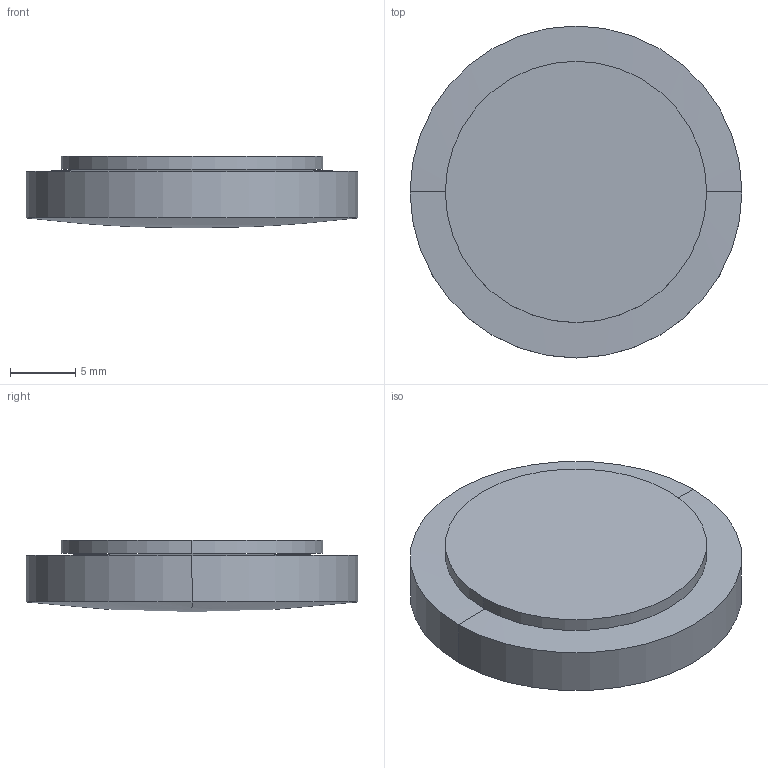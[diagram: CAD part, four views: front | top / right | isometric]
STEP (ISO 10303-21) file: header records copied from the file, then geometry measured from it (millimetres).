
FILE_DESCRIPTION(('STEP AP214'),'1');
FILE_NAME('LLQ-25190.STEP','2020-03-09T17:41:47',(' '),(' '),'Spatial InterOp 3D',' ',' ');
FILE_SCHEMA(('AUTOMOTIVE_DESIGN { 1 0 10303 214 1 1 1 1 }'));
Length unit declared in the file: millimetre
Products named in the file (1): 1
Bounding box: 25.4 x 25.4 x 5.5 mm (x, y, z)
Volume: 2352.9 mm3; surface area: 1989.5 mm2
Topology: 2 solids, 2 shells, 10 faces, 20 edges, 10 vertices
Faces by surface type: sphere 4, cylinder 4, plane 2
Entity records: 255 total; most frequent: DIRECTION 52, CARTESIAN_POINT 38, ORIENTED_EDGE 32, AXIS2_PLACEMENT_3D 24, EDGE_CURVE 16, CIRCLE 12, ADVANCED_FACE 10, FACE_OUTER_BOUND 10
